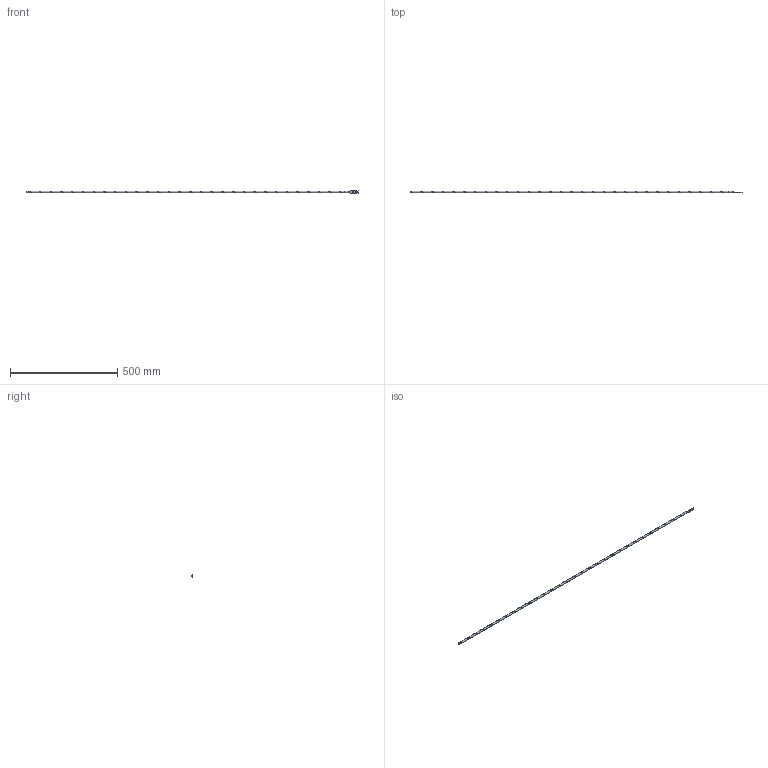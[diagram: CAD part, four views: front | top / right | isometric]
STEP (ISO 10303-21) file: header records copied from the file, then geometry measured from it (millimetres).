
FILE_DESCRIPTION(/* description */ (''),/* implementation_level */ '2;1');
FILE_NAME(/* name */ 'E:\Dutton\Manufacturing\drawings\Dutton Files\Ground Kits\BWJ6A60.stp',/* time_stamp */ '2023-09-07T14:16:53-04:00',/* author */ ('tfoster'),/* organization */ (''),/* preprocessor_version */ 'ST-DEVELOPER v19',/* originating_system */ 'Autodesk Inventor 2023',/* authorisation */ '');
FILE_SCHEMA (('AUTOMOTIVE_DESIGN { 1 0 10303 214 3 1 1 }'));
Length unit declared in the file: millimetre
Products named in the file (1): BWJ6A60
Bounding box: 1548 x 8.64 x 11.18 mm (x, y, z)
Volume: 81598.1 mm3; surface area: 44687.2 mm2
Topology: 1 solids, 1 shells, 25 faces, 61 edges, 42 vertices
Faces by surface type: plane 12, bspline 7, cylinder 6
Full cylindrical faces by diameter (mm): 7.137 x2, 8.255 x1, 8.382 x1, 8.636 x1
Entity records: 6809 total; most frequent: CARTESIAN_POINT 6111, ORIENTED_EDGE 122, DIRECTION 109, EDGE_CURVE 61, VERTEX_POINT 42, AXIS2_PLACEMENT_3D 37, LINE 35, VECTOR 35
